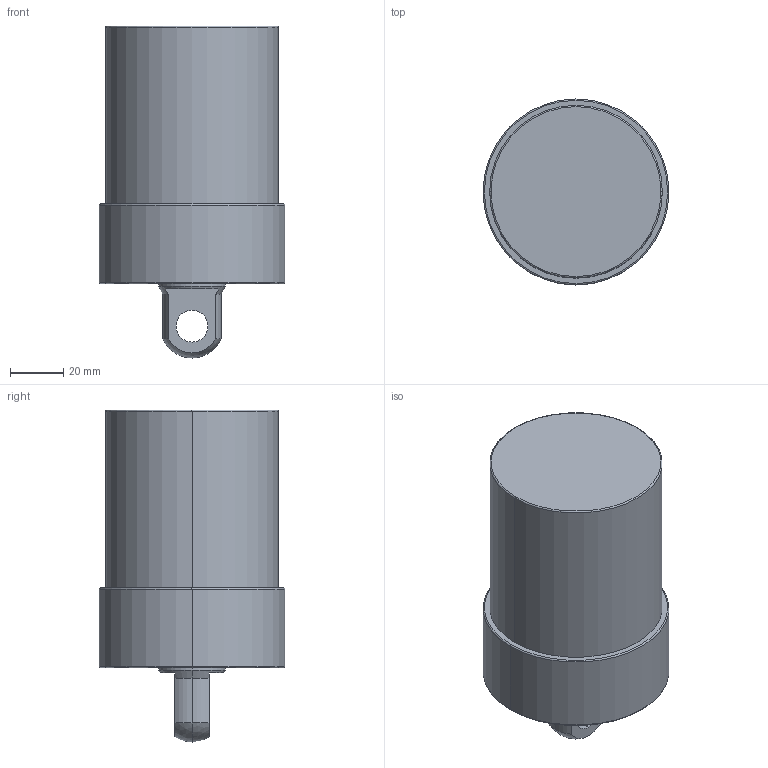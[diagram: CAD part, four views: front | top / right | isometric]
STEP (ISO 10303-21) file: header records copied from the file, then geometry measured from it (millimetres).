
FILE_DESCRIPTION (( 'STEP AP203' ), '1' );
FILE_NAME ('CLLU-065GP-050.STEP', '2020-01-06T09:23:51', ( '' ), ( '' ), 'SwSTEP 2.0', 'SolidWorks 2015', '' );
FILE_SCHEMA (( 'CONFIG_CONTROL_DESIGN' ));
Length unit declared in the file: millimetre
Products named in the file (1): CLLU-065GP-050
Bounding box: 70 x 70 x 125 mm (x, y, z)
Volume: 341968.3 mm3; surface area: 30776.8 mm2
Topology: 1 solids, 1 shells, 58 faces, 131 edges, 75 vertices
Faces by surface type: cylinder 23, cone 18, plane 9, torus 6, sphere 2
Entity records: 1658 total; most frequent: DIRECTION 311, CARTESIAN_POINT 269, ORIENTED_EDGE 246, AXIS2_PLACEMENT_3D 133, EDGE_CURVE 123, VERTEX_POINT 75, CIRCLE 74, EDGE_LOOP 68
